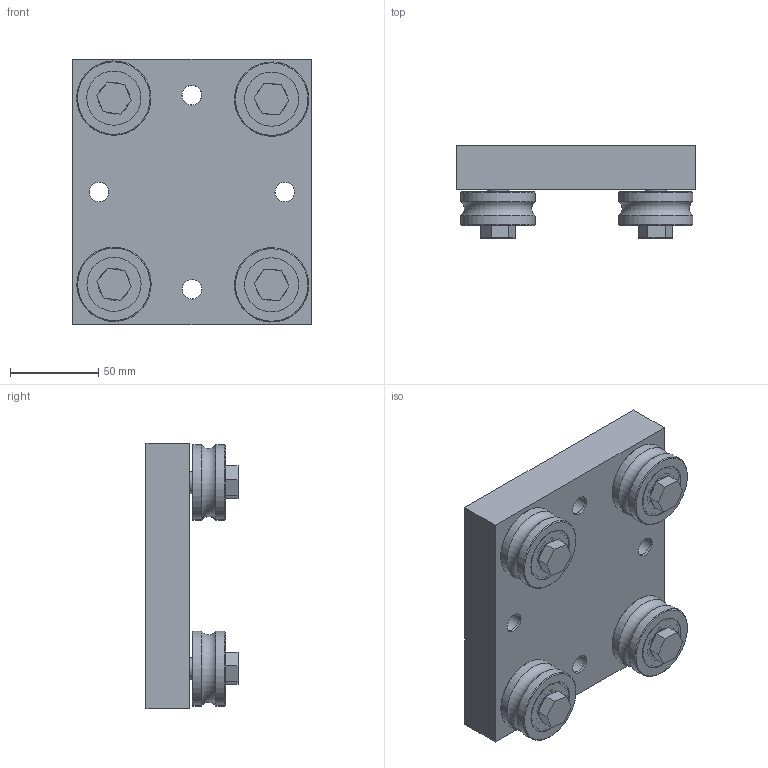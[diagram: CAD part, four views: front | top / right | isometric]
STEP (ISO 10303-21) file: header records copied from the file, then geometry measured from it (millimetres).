
FILE_DESCRIPTION(/* description */ ('Unknown'),/* implementation_level */ '2;1');
FILE_NAME(/* name */ 'Laufwagen_HLFL52-SF_mit_LFR5301',/* time_stamp */ '2024-03-20T07:32:57+01:00',/* author */ ('Unknown'),/* organization */ ('Unknown'),/* preprocessor_version */ 'ST-DEVELOPER v16.7',/* originating_system */ 'Solid Edge',/* authorisation */ 'Unknown');
FILE_SCHEMA (('AUTOMOTIVE_DESIGN {1 0 10303 214 3 1 1}'));
Length unit declared in the file: millimetre
Products named in the file (4): Laufwagen_HLFL52-SF_mit_LFR5301; Laufwagenplatte_HLF52E-LFR5301; inafag_lfr5301-10-2z_7lrywpzxbsc39e6bdv71h1wdf; inafag_lfz12_m12_5wuc96nmv3ox6s9lhy9c4ech5
Assembly tree (9 placements, depth 2):
  Laufwagen_HLFL52-SF_mit_LFR5301
    Laufwagenplatte_HLF52E-LFR5301
    inafag_lfr5301-10-2z_7lrywpzxbsc39e6bdv71h1wdf  x4
    inafag_lfz12_m12_5wuc96nmv3ox6s9lhy9c4ech5  x4
Bounding box: 135 x 52 x 150 mm (x, y, z)
Volume: 620489 mm3; surface area: 126598.3 mm2
Topology: 13 solids, 17 shells, 546 faces, 1912 edges, 1224 vertices
Faces by surface type: cylinder 168, sphere 152, plane 138, torus 76, cone 12
Full cylindrical faces by diameter (mm): 11 x8, 11.1 x8, 12 x8, 12.002 x4, 18 x16, 19 x4, 19.4 x12, 21.8 x8, 28.2 x8, 30.6 x20, 42 x8
Entity records: 5454 total; most frequent: CARTESIAN_POINT 1659, DIRECTION 606, ORIENTED_EDGE 598, EDGE_CURVE 299, AXIS2_PLACEMENT_3D 272, EDGE_LOOP 228, FACE_BOUND 228, VERTEX_POINT 225
